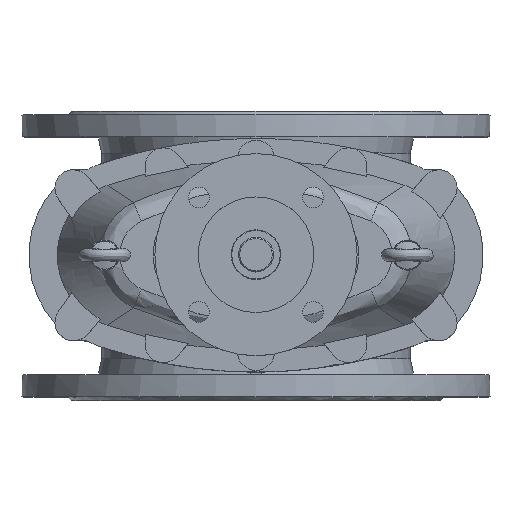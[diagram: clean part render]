
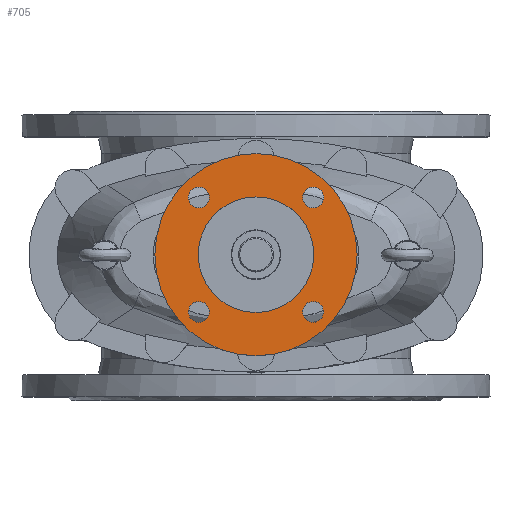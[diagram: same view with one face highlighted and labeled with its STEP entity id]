
A CAD part, top view. The second image highlights one B-rep face of the part: STEP entity #705.
In plain terms, the highlighted planar face has unit normal (0, 0, 1).
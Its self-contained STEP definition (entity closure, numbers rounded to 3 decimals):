
#705=ADVANCED_FACE('',(#3510,#3512,#3514,#3516,#3518,#3520),#3522,.T.);
#3510=FACE_BOUND('',#3511,.T.);
#3511=EDGE_LOOP('',(#22204));
#3512=FACE_BOUND('',#3513,.T.);
#3513=EDGE_LOOP('',(#22205));
#3514=FACE_BOUND('',#3515,.T.);
#3515=EDGE_LOOP('',(#22206));
#3516=FACE_BOUND('',#3517,.T.);
#3517=EDGE_LOOP('',(#22207));
#3518=FACE_BOUND('',#3519,.T.);
#3519=EDGE_LOOP('',(#22208));
#3520=FACE_BOUND('',#3521,.T.);
#3521=EDGE_LOOP('',(#22209));
#3522=PLANE('',#3523);
#3523=AXIS2_PLACEMENT_3D('',#3524,#3525,#3526);
#3524=CARTESIAN_POINT('',(0.,0.,645.));
#3525=DIRECTION('',(0.,0.,1.));
#3526=DIRECTION('',(-1.,0.,0.));
#22204=ORIENTED_EDGE('',*,*,#23848,.F.);
#22205=ORIENTED_EDGE('',*,*,#23849,.T.);
#22206=ORIENTED_EDGE('',*,*,#23850,.T.);
#22207=ORIENTED_EDGE('',*,*,#23851,.T.);
#22208=ORIENTED_EDGE('',*,*,#23854,.T.);
#22209=ORIENTED_EDGE('',*,*,#23852,.T.);
#23848=EDGE_CURVE('',#24882,#24882,#24883,.T.);
#23849=EDGE_CURVE('',#24884,#24884,#24885,.F.);
#23850=EDGE_CURVE('',#24886,#24886,#24887,.F.);
#23851=EDGE_CURVE('',#24888,#24888,#24889,.F.);
#23852=EDGE_CURVE('',#24890,#24890,#24891,.F.);
#23854=EDGE_CURVE('',#24894,#24894,#24895,.T.);
#24882=VERTEX_POINT('',#27307);
#24883=CIRCLE('',#27308,87.5);
#24884=VERTEX_POINT('',#27312);
#24885=CIRCLE('',#27313,9.);
#24886=VERTEX_POINT('',#27317);
#24887=CIRCLE('',#27318,9.);
#24888=VERTEX_POINT('',#27322);
#24889=CIRCLE('',#27323,9.);
#24890=VERTEX_POINT('',#27327);
#24891=CIRCLE('',#27328,9.);
#24894=VERTEX_POINT('',#27337);
#24895=CIRCLE('',#27338,50.);
#27307=CARTESIAN_POINT('',(-87.5,0.,645.));
#27308=AXIS2_PLACEMENT_3D('',#27309,#27310,#27311);
#27309=CARTESIAN_POINT('',(0.,0.,645.));
#27310=DIRECTION('',(0.,0.,-1.));
#27311=DIRECTION('',(-1.,0.,0.));
#27312=CARTESIAN_POINT('',(49.497,-40.497,645.));
#27313=AXIS2_PLACEMENT_3D('',#27314,#27315,#27316);
#27314=CARTESIAN_POINT('',(49.497,-49.497,645.));
#27315=DIRECTION('',(0.,0.,1.));
#27316=DIRECTION('',(0.,1.,0.));
#27317=CARTESIAN_POINT('',(-40.497,-49.497,645.));
#27318=AXIS2_PLACEMENT_3D('',#27319,#27320,#27321);
#27319=CARTESIAN_POINT('',(-49.497,-49.497,645.));
#27320=DIRECTION('',(0.,0.,1.));
#27321=DIRECTION('',(1.,0.,0.));
#27322=CARTESIAN_POINT('',(-49.497,40.497,645.));
#27323=AXIS2_PLACEMENT_3D('',#27324,#27325,#27326);
#27324=CARTESIAN_POINT('',(-49.497,49.497,645.));
#27325=DIRECTION('',(0.,0.,1.));
#27326=DIRECTION('',(0.,-1.,0.));
#27327=CARTESIAN_POINT('',(40.497,49.497,645.));
#27328=AXIS2_PLACEMENT_3D('',#27329,#27330,#27331);
#27329=CARTESIAN_POINT('',(49.497,49.497,645.));
#27330=DIRECTION('',(0.,0.,1.));
#27331=DIRECTION('',(-1.,0.,0.));
#27337=CARTESIAN_POINT('',(-50.,0.,645.));
#27338=AXIS2_PLACEMENT_3D('',#27339,#27340,#27341);
#27339=CARTESIAN_POINT('',(0.,0.,645.));
#27340=DIRECTION('',(0.,0.,-1.));
#27341=DIRECTION('',(-1.,0.,0.));
